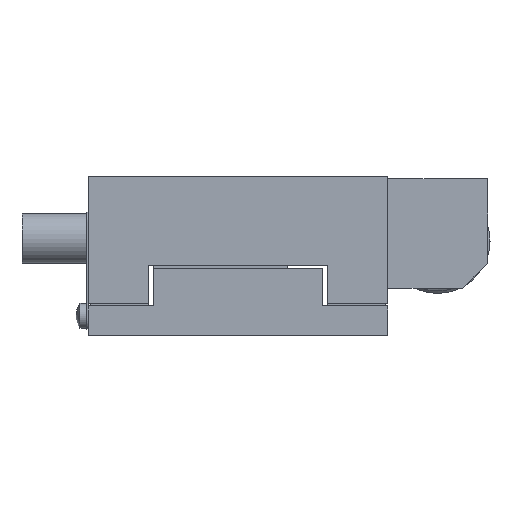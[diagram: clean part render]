
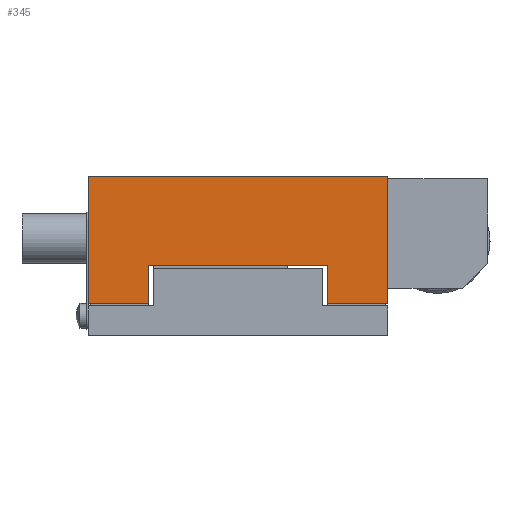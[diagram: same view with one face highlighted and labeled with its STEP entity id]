
A CAD part, left-side view. The second image highlights one B-rep face of the part: STEP entity #345.
In plain terms, the highlighted planar face has unit normal (-1, 0, 0).
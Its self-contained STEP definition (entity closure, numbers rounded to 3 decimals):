
#345 = ADVANCED_FACE( '', ( #873 ), #874, .T. );
#873 = FACE_OUTER_BOUND( '', #1729, .T. );
#874 = PLANE( '', #1730 );
#1729 = EDGE_LOOP( '', ( #2700, #2701, #2702, #2703, #2704, #2705, #2706, #2707 ) );
#1730 = AXIS2_PLACEMENT_3D( '', #2708, #2709, #2710 );
#2700 = ORIENTED_EDGE( '', *, *, #4135, .T. );
#2701 = ORIENTED_EDGE( '', *, *, #4136, .T. );
#2702 = ORIENTED_EDGE( '', *, *, #4137, .F. );
#2703 = ORIENTED_EDGE( '', *, *, #4138, .F. );
#2704 = ORIENTED_EDGE( '', *, *, #4139, .T. );
#2705 = ORIENTED_EDGE( '', *, *, #4140, .T. );
#2706 = ORIENTED_EDGE( '', *, *, #4141, .F. );
#2707 = ORIENTED_EDGE( '', *, *, #4142, .F. );
#2708 = CARTESIAN_POINT( '', ( -55., 0., 14. ) );
#2709 = DIRECTION( '', ( -1., 0., 0. ) );
#2710 = DIRECTION( '', ( 0., 0., 1. ) );
#4135 = EDGE_CURVE( '', #4832, #4833, #4834, .F. );
#4136 = EDGE_CURVE( '', #4833, #4835, #4836, .T. );
#4137 = EDGE_CURVE( '', #4837, #4835, #4838, .F. );
#4138 = EDGE_CURVE( '', #4839, #4837, #4840, .T. );
#4139 = EDGE_CURVE( '', #4839, #4841, #4842, .T. );
#4140 = EDGE_CURVE( '', #4841, #4843, #4844, .T. );
#4141 = EDGE_CURVE( '', #4845, #4843, #4846, .T. );
#4142 = EDGE_CURVE( '', #4832, #4845, #4847, .T. );
#4832 = VERTEX_POINT( '', #5752 );
#4833 = VERTEX_POINT( '', #5753 );
#4834 = LINE( '', #5754, #5755 );
#4835 = VERTEX_POINT( '', #5756 );
#4836 = LINE( '', #5757, #5758 );
#4837 = VERTEX_POINT( '', #5759 );
#4838 = LINE( '', #5760, #5761 );
#4839 = VERTEX_POINT( '', #5762 );
#4840 = LINE( '', #5763, #5764 );
#4841 = VERTEX_POINT( '', #5765 );
#4842 = LINE( '', #5766, #5767 );
#4843 = VERTEX_POINT( '', #5768 );
#4844 = LINE( '', #5769, #5770 );
#4845 = VERTEX_POINT( '', #5771 );
#4846 = LINE( '', #5772, #5773 );
#4847 = LINE( '', #5774, #5775 );
#5752 = CARTESIAN_POINT( '', ( -55., 18., 6.5 ) );
#5753 = CARTESIAN_POINT( '', ( -55., 18., 14. ) );
#5754 = CARTESIAN_POINT( '', ( -55., 18., 14. ) );
#5755 = VECTOR( '', #6736, 1000. );
#5756 = CARTESIAN_POINT( '', ( -55., -18., 14. ) );
#5757 = CARTESIAN_POINT( '', ( -55., 0., 14. ) );
#5758 = VECTOR( '', #6737, 1000. );
#5759 = CARTESIAN_POINT( '', ( -55., -18., 6.5 ) );
#5760 = CARTESIAN_POINT( '', ( -55., -18., 14. ) );
#5761 = VECTOR( '', #6738, 1000. );
#5762 = CARTESIAN_POINT( '', ( -55., -30., 6.5 ) );
#5763 = CARTESIAN_POINT( '', ( -55., -24., 6.5 ) );
#5764 = VECTOR( '', #6739, 1000. );
#5765 = CARTESIAN_POINT( '', ( -55., -30., 32. ) );
#5766 = CARTESIAN_POINT( '', ( -55., -30., 14. ) );
#5767 = VECTOR( '', #6740, 1000. );
#5768 = CARTESIAN_POINT( '', ( -55., 30., 32. ) );
#5769 = CARTESIAN_POINT( '', ( -55., 0., 32. ) );
#5770 = VECTOR( '', #6741, 1000. );
#5771 = CARTESIAN_POINT( '', ( -55., 30., 6.5 ) );
#5772 = CARTESIAN_POINT( '', ( -55., 30., 14. ) );
#5773 = VECTOR( '', #6742, 1000. );
#5774 = CARTESIAN_POINT( '', ( -55., 23.75, 6.5 ) );
#5775 = VECTOR( '', #6743, 1000. );
#6736 = DIRECTION( '', ( 0., 0., -1. ) );
#6737 = DIRECTION( '', ( 0., -1., 0. ) );
#6738 = DIRECTION( '', ( 0., 0., -1. ) );
#6739 = DIRECTION( '', ( 0., 1., 0. ) );
#6740 = DIRECTION( '', ( 0., 0., 1. ) );
#6741 = DIRECTION( '', ( 0., 1., 0. ) );
#6742 = DIRECTION( '', ( 0., 0., 1. ) );
#6743 = DIRECTION( '', ( 0., 1., 0. ) );
